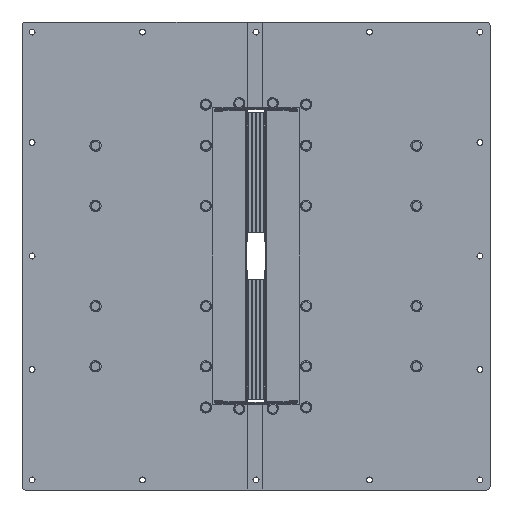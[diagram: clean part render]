
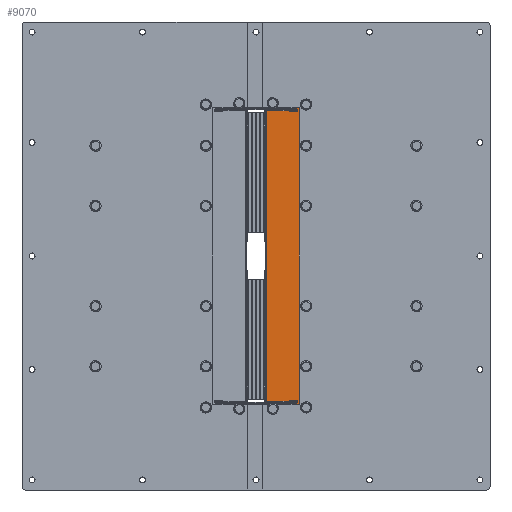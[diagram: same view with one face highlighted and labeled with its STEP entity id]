
A CAD part, left-side view. The second image highlights one B-rep face of the part: STEP entity #9070.
In plain terms, the highlighted planar face has unit normal (-1, 0, 0).
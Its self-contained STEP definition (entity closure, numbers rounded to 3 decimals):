
#8285=AXIS2_PLACEMENT_3D('Plane Axis2P3D',#8282,#8283,#8284) ;
#8419=AXIS2_PLACEMENT_3D('Circle Axis2P3D',#8417,#8418,$) ;
#8481=AXIS2_PLACEMENT_3D('Circle Axis2P3D',#8479,#8480,$) ;
#8750=AXIS2_PLACEMENT_3D('Circle Axis2P3D',#8748,#8749,$) ;
#8798=AXIS2_PLACEMENT_3D('Circle Axis2P3D',#8796,#8797,$) ;
#8964=AXIS2_PLACEMENT_3D('Circle Axis2P3D',#8962,#8963,$) ;
#8973=AXIS2_PLACEMENT_3D('Circle Axis2P3D',#8971,#8972,$) ;
#8982=AXIS2_PLACEMENT_3D('Circle Axis2P3D',#8980,#8981,$) ;
#8991=AXIS2_PLACEMENT_3D('Circle Axis2P3D',#8989,#8990,$) ;
#9000=AXIS2_PLACEMENT_3D('Circle Axis2P3D',#8998,#8999,$) ;
#9009=AXIS2_PLACEMENT_3D('Circle Axis2P3D',#9007,#9008,$) ;
#9018=AXIS2_PLACEMENT_3D('Circle Axis2P3D',#9016,#9017,$) ;
#9027=AXIS2_PLACEMENT_3D('Circle Axis2P3D',#9025,#9026,$) ;
#9036=AXIS2_PLACEMENT_3D('Circle Axis2P3D',#9034,#9035,$) ;
#9045=AXIS2_PLACEMENT_3D('Circle Axis2P3D',#9043,#9044,$) ;
#9054=AXIS2_PLACEMENT_3D('Circle Axis2P3D',#9052,#9053,$) ;
#9063=AXIS2_PLACEMENT_3D('Circle Axis2P3D',#9061,#9062,$) ;
#8282=CARTESIAN_POINT('Axis2P3D Location',(0.,0.,0.)) ;
#8323=CARTESIAN_POINT('Vertex',(0.,-60.,218.5)) ;
#8328=CARTESIAN_POINT('Line Origine',(0.,-60.,229.25)) ;
#8332=CARTESIAN_POINT('Vertex',(0.,-60.,240.)) ;
#8386=CARTESIAN_POINT('Line Origine',(0.,-69.,240.)) ;
#8390=CARTESIAN_POINT('Vertex',(0.,-78.,240.)) ;
#8417=CARTESIAN_POINT('Axis2P3D Location',(0.,-78.,235.)) ;
#8421=CARTESIAN_POINT('Vertex',(0.,-83.,235.)) ;
#8448=CARTESIAN_POINT('Line Origine',(0.,-83.,0.)) ;
#8452=CARTESIAN_POINT('Vertex',(0.,-83.,-235.)) ;
#8479=CARTESIAN_POINT('Axis2P3D Location',(0.,-78.,-235.)) ;
#8483=CARTESIAN_POINT('Vertex',(0.,-78.,-240.)) ;
#8510=CARTESIAN_POINT('Line Origine',(0.,-69.,-240.)) ;
#8514=CARTESIAN_POINT('Vertex',(0.,-60.,-240.)) ;
#8536=CARTESIAN_POINT('Line Origine',(0.,-60.,-229.25)) ;
#8540=CARTESIAN_POINT('Vertex',(0.,-60.,-218.5)) ;
#8575=CARTESIAN_POINT('Vertex',(0.,-60.,217.)) ;
#8578=CARTESIAN_POINT('Line Origine',(0.,-60.,217.75)) ;
#8611=CARTESIAN_POINT('Vertex',(0.,-16.22,217.)) ;
#8614=CARTESIAN_POINT('Line Origine',(0.,-38.11,217.)) ;
#8745=CARTESIAN_POINT('Vertex',(0.,-15.72,216.5)) ;
#8748=CARTESIAN_POINT('Axis2P3D Location',(0.,-16.22,216.5)) ;
#8769=CARTESIAN_POINT('Vertex',(0.,-15.72,-216.5)) ;
#8772=CARTESIAN_POINT('Line Origine',(0.,-15.72,0.)) ;
#8793=CARTESIAN_POINT('Vertex',(0.,-16.22,-217.)) ;
#8796=CARTESIAN_POINT('Axis2P3D Location',(0.,-16.22,-216.5)) ;
#8817=CARTESIAN_POINT('Vertex',(0.,-60.,-217.)) ;
#8820=CARTESIAN_POINT('Line Origine',(0.,-38.11,-217.)) ;
#8837=CARTESIAN_POINT('Line Origine',(0.,-60.,-217.75)) ;
#8962=CARTESIAN_POINT('Axis2P3D Location',(0.,-73.5,165.)) ;
#8966=CARTESIAN_POINT('Vertex',(0.,-79.,165.)) ;
#8968=CARTESIAN_POINT('Vertex',(0.,-68.,165.)) ;
#8971=CARTESIAN_POINT('Axis2P3D Location',(0.,-73.5,165.)) ;
#8980=CARTESIAN_POINT('Axis2P3D Location',(0.,-73.5,75.)) ;
#8984=CARTESIAN_POINT('Vertex',(0.,-79.,75.)) ;
#8986=CARTESIAN_POINT('Vertex',(0.,-68.,75.)) ;
#8989=CARTESIAN_POINT('Axis2P3D Location',(0.,-73.5,75.)) ;
#8998=CARTESIAN_POINT('Axis2P3D Location',(0.,-73.5,-75.)) ;
#9002=CARTESIAN_POINT('Vertex',(0.,-79.,-75.)) ;
#9004=CARTESIAN_POINT('Vertex',(0.,-68.,-75.)) ;
#9007=CARTESIAN_POINT('Axis2P3D Location',(0.,-73.5,-75.)) ;
#9016=CARTESIAN_POINT('Axis2P3D Location',(0.,-73.5,-165.)) ;
#9020=CARTESIAN_POINT('Vertex',(0.,-79.,-165.)) ;
#9022=CARTESIAN_POINT('Vertex',(0.,-68.,-165.)) ;
#9025=CARTESIAN_POINT('Axis2P3D Location',(0.,-73.5,-165.)) ;
#9034=CARTESIAN_POINT('Axis2P3D Location',(0.,-73.5,226.5)) ;
#9038=CARTESIAN_POINT('Vertex',(0.,-79.,226.5)) ;
#9040=CARTESIAN_POINT('Vertex',(0.,-68.,226.5)) ;
#9043=CARTESIAN_POINT('Axis2P3D Location',(0.,-73.5,226.5)) ;
#9052=CARTESIAN_POINT('Axis2P3D Location',(0.,-73.5,-226.5)) ;
#9056=CARTESIAN_POINT('Vertex',(0.,-79.,-226.5)) ;
#9058=CARTESIAN_POINT('Vertex',(0.,-68.,-226.5)) ;
#9061=CARTESIAN_POINT('Axis2P3D Location',(0.,-73.5,-226.5)) ;
#8283=DIRECTION('Axis2P3D Direction',(1.,0.,0.)) ;
#8284=DIRECTION('Axis2P3D XDirection',(0.,1.,0.)) ;
#8329=DIRECTION('Vector Direction',(0.,0.,-1.)) ;
#8387=DIRECTION('Vector Direction',(0.,-1.,0.)) ;
#8418=DIRECTION('Axis2P3D Direction',(1.,0.,0.)) ;
#8449=DIRECTION('Vector Direction',(0.,0.,1.)) ;
#8480=DIRECTION('Axis2P3D Direction',(1.,0.,0.)) ;
#8511=DIRECTION('Vector Direction',(0.,1.,0.)) ;
#8537=DIRECTION('Vector Direction',(0.,0.,-1.)) ;
#8579=DIRECTION('Vector Direction',(0.,0.,-1.)) ;
#8615=DIRECTION('Vector Direction',(0.,1.,0.)) ;
#8749=DIRECTION('Axis2P3D Direction',(1.,0.,0.)) ;
#8773=DIRECTION('Vector Direction',(0.,0.,1.)) ;
#8797=DIRECTION('Axis2P3D Direction',(1.,0.,0.)) ;
#8821=DIRECTION('Vector Direction',(0.,-1.,0.)) ;
#8838=DIRECTION('Vector Direction',(0.,0.,-1.)) ;
#8963=DIRECTION('Axis2P3D Direction',(1.,0.,0.)) ;
#8972=DIRECTION('Axis2P3D Direction',(1.,0.,0.)) ;
#8981=DIRECTION('Axis2P3D Direction',(1.,0.,0.)) ;
#8990=DIRECTION('Axis2P3D Direction',(1.,0.,0.)) ;
#8999=DIRECTION('Axis2P3D Direction',(1.,0.,0.)) ;
#9008=DIRECTION('Axis2P3D Direction',(1.,0.,0.)) ;
#9017=DIRECTION('Axis2P3D Direction',(1.,0.,0.)) ;
#9026=DIRECTION('Axis2P3D Direction',(1.,0.,0.)) ;
#9035=DIRECTION('Axis2P3D Direction',(1.,0.,0.)) ;
#9044=DIRECTION('Axis2P3D Direction',(1.,0.,0.)) ;
#9053=DIRECTION('Axis2P3D Direction',(1.,0.,0.)) ;
#9062=DIRECTION('Axis2P3D Direction',(1.,0.,0.)) ;
#8330=VECTOR('Line Direction',#8329,1.) ;
#8388=VECTOR('Line Direction',#8387,1.) ;
#8450=VECTOR('Line Direction',#8449,1.) ;
#8512=VECTOR('Line Direction',#8511,1.) ;
#8538=VECTOR('Line Direction',#8537,1.) ;
#8580=VECTOR('Line Direction',#8579,1.) ;
#8616=VECTOR('Line Direction',#8615,1.) ;
#8774=VECTOR('Line Direction',#8773,1.) ;
#8822=VECTOR('Line Direction',#8821,1.) ;
#8839=VECTOR('Line Direction',#8838,1.) ;
#8947=ORIENTED_EDGE('',*,*,#8582,.T.) ;
#8948=ORIENTED_EDGE('',*,*,#8618,.T.) ;
#8949=ORIENTED_EDGE('',*,*,#8752,.T.) ;
#8950=ORIENTED_EDGE('',*,*,#8776,.T.) ;
#8951=ORIENTED_EDGE('',*,*,#8800,.T.) ;
#8952=ORIENTED_EDGE('',*,*,#8824,.T.) ;
#8953=ORIENTED_EDGE('',*,*,#8841,.T.) ;
#8954=ORIENTED_EDGE('',*,*,#8542,.F.) ;
#8955=ORIENTED_EDGE('',*,*,#8516,.F.) ;
#8956=ORIENTED_EDGE('',*,*,#8485,.F.) ;
#8957=ORIENTED_EDGE('',*,*,#8454,.F.) ;
#8958=ORIENTED_EDGE('',*,*,#8423,.F.) ;
#8959=ORIENTED_EDGE('',*,*,#8392,.F.) ;
#8960=ORIENTED_EDGE('',*,*,#8334,.F.) ;
#8977=ORIENTED_EDGE('',*,*,#8970,.T.) ;
#8978=ORIENTED_EDGE('',*,*,#8975,.T.) ;
#8995=ORIENTED_EDGE('',*,*,#8988,.T.) ;
#8996=ORIENTED_EDGE('',*,*,#8993,.T.) ;
#9013=ORIENTED_EDGE('',*,*,#9006,.T.) ;
#9014=ORIENTED_EDGE('',*,*,#9011,.T.) ;
#9031=ORIENTED_EDGE('',*,*,#9024,.T.) ;
#9032=ORIENTED_EDGE('',*,*,#9029,.T.) ;
#9049=ORIENTED_EDGE('',*,*,#9042,.T.) ;
#9050=ORIENTED_EDGE('',*,*,#9047,.T.) ;
#9067=ORIENTED_EDGE('',*,*,#9060,.T.) ;
#9068=ORIENTED_EDGE('',*,*,#9065,.T.) ;
#8979=FACE_BOUND('',#8976,.T.) ;
#8997=FACE_BOUND('',#8994,.T.) ;
#9015=FACE_BOUND('',#9012,.T.) ;
#9033=FACE_BOUND('',#9030,.T.) ;
#9051=FACE_BOUND('',#9048,.T.) ;
#9069=FACE_BOUND('',#9066,.T.) ;
#9070=ADVANCED_FACE('Laterale(L3)',(#8961,#8979,#8997,#9015,#9033,#9051,#9069),#8286,.F.) ;
#8420=CIRCLE('generated circle',#8419,5.) ;
#8482=CIRCLE('generated circle',#8481,5.) ;
#8751=CIRCLE('generated circle',#8750,0.5) ;
#8799=CIRCLE('generated circle',#8798,0.5) ;
#8965=CIRCLE('generated circle',#8964,5.5) ;
#8974=CIRCLE('generated circle',#8973,5.5) ;
#8983=CIRCLE('generated circle',#8982,5.5) ;
#8992=CIRCLE('generated circle',#8991,5.5) ;
#9001=CIRCLE('generated circle',#9000,5.5) ;
#9010=CIRCLE('generated circle',#9009,5.5) ;
#9019=CIRCLE('generated circle',#9018,5.5) ;
#9028=CIRCLE('generated circle',#9027,5.5) ;
#9037=CIRCLE('generated circle',#9036,5.5) ;
#9046=CIRCLE('generated circle',#9045,5.5) ;
#9055=CIRCLE('generated circle',#9054,5.5) ;
#9064=CIRCLE('generated circle',#9063,5.5) ;
#8334=EDGE_CURVE('',#8324,#8333,#8331,.F.) ;
#8392=EDGE_CURVE('',#8333,#8391,#8389,.T.) ;
#8423=EDGE_CURVE('',#8391,#8422,#8420,.T.) ;
#8454=EDGE_CURVE('',#8422,#8453,#8451,.F.) ;
#8485=EDGE_CURVE('',#8453,#8484,#8482,.T.) ;
#8516=EDGE_CURVE('',#8484,#8515,#8513,.T.) ;
#8542=EDGE_CURVE('',#8515,#8541,#8539,.F.) ;
#8582=EDGE_CURVE('',#8324,#8576,#8581,.T.) ;
#8618=EDGE_CURVE('',#8576,#8612,#8617,.T.) ;
#8752=EDGE_CURVE('',#8612,#8746,#8751,.F.) ;
#8776=EDGE_CURVE('',#8746,#8770,#8775,.F.) ;
#8800=EDGE_CURVE('',#8770,#8794,#8799,.F.) ;
#8824=EDGE_CURVE('',#8794,#8818,#8823,.T.) ;
#8841=EDGE_CURVE('',#8818,#8541,#8840,.T.) ;
#8970=EDGE_CURVE('',#8967,#8969,#8965,.T.) ;
#8975=EDGE_CURVE('',#8969,#8967,#8974,.T.) ;
#8988=EDGE_CURVE('',#8985,#8987,#8983,.T.) ;
#8993=EDGE_CURVE('',#8987,#8985,#8992,.T.) ;
#9006=EDGE_CURVE('',#9003,#9005,#9001,.T.) ;
#9011=EDGE_CURVE('',#9005,#9003,#9010,.T.) ;
#9024=EDGE_CURVE('',#9021,#9023,#9019,.T.) ;
#9029=EDGE_CURVE('',#9023,#9021,#9028,.T.) ;
#9042=EDGE_CURVE('',#9039,#9041,#9037,.T.) ;
#9047=EDGE_CURVE('',#9041,#9039,#9046,.T.) ;
#9060=EDGE_CURVE('',#9057,#9059,#9055,.T.) ;
#9065=EDGE_CURVE('',#9059,#9057,#9064,.T.) ;
#8946=EDGE_LOOP('',(#8947,#8948,#8949,#8950,#8951,#8952,#8953,#8954,#8955,#8956,#8957,#8958,#8959,#8960)) ;
#8976=EDGE_LOOP('',(#8977,#8978)) ;
#8994=EDGE_LOOP('',(#8995,#8996)) ;
#9012=EDGE_LOOP('',(#9013,#9014)) ;
#9030=EDGE_LOOP('',(#9031,#9032)) ;
#9048=EDGE_LOOP('',(#9049,#9050)) ;
#9066=EDGE_LOOP('',(#9067,#9068)) ;
#8961=FACE_OUTER_BOUND('',#8946,.T.) ;
#8331=LINE('Line',#8328,#8330) ;
#8389=LINE('Line',#8386,#8388) ;
#8451=LINE('Line',#8448,#8450) ;
#8513=LINE('Line',#8510,#8512) ;
#8539=LINE('Line',#8536,#8538) ;
#8581=LINE('Line',#8578,#8580) ;
#8617=LINE('Line',#8614,#8616) ;
#8775=LINE('Line',#8772,#8774) ;
#8823=LINE('Line',#8820,#8822) ;
#8840=LINE('Line',#8837,#8839) ;
#8286=PLANE('',#8285) ;
#8324=VERTEX_POINT('',#8323) ;
#8333=VERTEX_POINT('',#8332) ;
#8391=VERTEX_POINT('',#8390) ;
#8422=VERTEX_POINT('',#8421) ;
#8453=VERTEX_POINT('',#8452) ;
#8484=VERTEX_POINT('',#8483) ;
#8515=VERTEX_POINT('',#8514) ;
#8541=VERTEX_POINT('',#8540) ;
#8576=VERTEX_POINT('',#8575) ;
#8612=VERTEX_POINT('',#8611) ;
#8746=VERTEX_POINT('',#8745) ;
#8770=VERTEX_POINT('',#8769) ;
#8794=VERTEX_POINT('',#8793) ;
#8818=VERTEX_POINT('',#8817) ;
#8967=VERTEX_POINT('',#8966) ;
#8969=VERTEX_POINT('',#8968) ;
#8985=VERTEX_POINT('',#8984) ;
#8987=VERTEX_POINT('',#8986) ;
#9003=VERTEX_POINT('',#9002) ;
#9005=VERTEX_POINT('',#9004) ;
#9021=VERTEX_POINT('',#9020) ;
#9023=VERTEX_POINT('',#9022) ;
#9039=VERTEX_POINT('',#9038) ;
#9041=VERTEX_POINT('',#9040) ;
#9057=VERTEX_POINT('',#9056) ;
#9059=VERTEX_POINT('',#9058) ;
